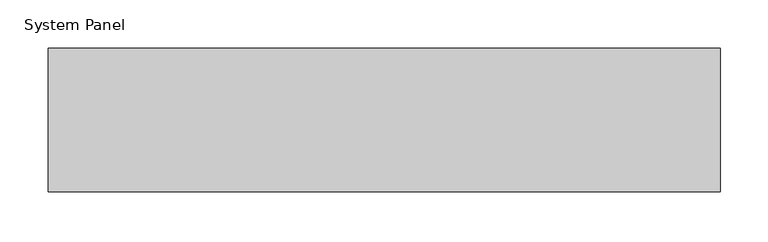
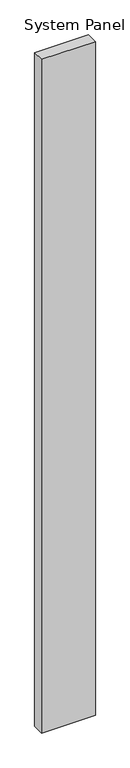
"""IFC4 building model written with IfcOpenShell, lengths in millimetres: plate geometry, System Panel : SolarSpan 150mm Roof - Plain Surfmist."""

import ifcopenshell
import ifcopenshell.guid

model = None  # the IFC model being written
_history = None  # IfcOwnerHistory: only IFC2X3 demands one
_inside = {}  # id of a spatial element -> (the spatial element, [elements in it])
_under = {}  # id of a project, library or spatial element -> (it, [spatial elements below it])
_declared = {}  # id of a project -> (the project, [libraries it declares])
_typed = {}  # id of a type object -> (the type object, [elements of that type])
_made_of = {}  # id of a material, layer set ... -> (it, [elements and type objects made of it])


def new_model(schema):
    """Start an empty IFC model of exactly this schema.

    Asked for "IFC4X3", IfcOpenShell would pick the latest addendum, in which some entities
    have other attributes; the version numbers below select the first issue.
    IFC2X3 requires an IfcOwnerHistory on every rooted entity: one is made here for all.
    """
    global model, _history
    if schema == "IFC4X3":
        model = ifcopenshell.file(schema_version=(4, 3, 0, 0))
    else:
        model = ifcopenshell.file(schema=schema)
    _inside.clear()
    _under.clear()
    _declared.clear()
    _typed.clear()
    _made_of.clear()
    _history = None
    if model.schema == "IFC2X3":
        org = make("IfcOrganization", Name="unknown")
        user = make(
            "IfcPersonAndOrganization",
            ThePerson=make("IfcPerson", FamilyName="unknown"),
            TheOrganization=org,
        )
        app = make(
            "IfcApplication",
            ApplicationDeveloper=org,
            Version="unknown",
            ApplicationFullName="unknown",
            ApplicationIdentifier="unknown",
        )
        _history = make(
            "IfcOwnerHistory",
            OwningUser=user,
            OwningApplication=app,
            ChangeAction="ADDED",
            CreationDate=0,
        )
    return model


def make(cls, **values):
    """One entity of the class cls with the attributes given. An attribute that is None is left unset."""
    return model.create_entity(
        cls, **{name: value for name, value in values.items() if value is not None}
    )


def rooted(cls, **values):
    """An entity with a GlobalId (a new one), such as an element, a storey or a relation."""
    return make(cls, GlobalId=ifcopenshell.guid.new(), OwnerHistory=_history, **values)


def si_unit(unit_type, name, prefix=None):
    """IfcSIUnit, for example si_unit("LENGTHUNIT", "METRE", prefix="MILLI")."""
    return make("IfcSIUnit", UnitType=unit_type, Prefix=prefix, Name=name)


def assignment(units):
    """IfcUnitAssignment: the units of a project."""
    return None if units is None else make("IfcUnitAssignment", Units=units)


def point(xyz):
    """IfcCartesianPoint."""
    return None if xyz is None else make("IfcCartesianPoint", Coordinates=xyz)


def direction(xyz):
    """IfcDirection."""
    return None if xyz is None else make("IfcDirection", DirectionRatios=xyz)


def frame(location, z_axis=None, x_axis=None):
    """IfcAxis2Placement3D, a coordinate frame: its origin and axes. An axis left out is left unset."""
    return make(
        "IfcAxis2Placement3D",
        Location=point(location),
        Axis=direction(z_axis),
        RefDirection=direction(x_axis),
    )


def origin():
    """The frame at (0, 0, 0) with its axes left unset."""
    return frame((0.0, 0.0, 0.0))


def origin_with_axes():
    """The frame at (0, 0, 0) with the z axis (0, 0, 1) and the x axis (1, 0, 0) written out."""
    return frame((0.0, 0.0, 0.0), z_axis=(0.0, 0.0, 1.0), x_axis=(1.0, 0.0, 0.0))


def place(relative_to, where):
    """IfcLocalPlacement: puts the frame where relative to a parent placement (None: the world)."""
    return make(
        "IfcLocalPlacement", PlacementRelTo=relative_to, RelativePlacement=where
    )


def context(
    kind, dimensions, precision=None, world=None, true_north=None, identifier=None
):
    """IfcGeometricRepresentationContext, for example the 3D "Model" context."""
    return make(
        "IfcGeometricRepresentationContext",
        ContextIdentifier=identifier,
        ContextType=kind,
        CoordinateSpaceDimension=dimensions,
        Precision=precision,
        WorldCoordinateSystem=world,
        TrueNorth=true_north,
    )


def project(units=None, contexts=None):
    """IfcProject with its units and contexts."""
    return rooted(
        "IfcProject",
        Name="project",
        RepresentationContexts=contexts,
        UnitsInContext=assignment(units),
    )


def spatial(cls, under=None, at=None, **own):
    """A site, building, storey or space (cls), placed at a placement, below another one or the project."""
    s = rooted(cls, ObjectPlacement=at, **own)
    if under is not None:
        _under.setdefault(under.id(), (under, []))[1].append(s)
    return s


def polyline(points):
    """IfcPolyline through the points."""
    return make("IfcPolyline", Points=[point(p) for p in points])


def outline(outer, holes=None, kind="AREA"):
    """IfcArbitraryClosedProfileDef: a profile drawn as a closed curve; with holes, ...WithVoids."""
    if holes is None:
        return make("IfcArbitraryClosedProfileDef", ProfileType=kind, OuterCurve=outer)
    return make(
        "IfcArbitraryProfileDefWithVoids",
        ProfileType=kind,
        OuterCurve=outer,
        InnerCurves=holes,
    )


def extrude(swept, where, along, depth):
    """IfcExtrudedAreaSolid: the profile swept, set in the frame where, extruded along a direction by depth."""
    return make(
        "IfcExtrudedAreaSolid",
        SweptArea=swept,
        Position=where,
        ExtrudedDirection=direction(along),
        Depth=depth,
    )


def shape(context_of_items, identifier, shape_type, items):
    """IfcShapeRepresentation: the items that make up one representation, for example the "Body"."""
    return make(
        "IfcShapeRepresentation",
        ContextOfItems=context_of_items,
        RepresentationIdentifier=identifier,
        RepresentationType=shape_type,
        Items=items,
    )


def source(mapping_origin, context_of_items, identifier, shape_type, items):
    """IfcRepresentationMap: a shape defined once, which mapped items show again and again."""
    return make(
        "IfcRepresentationMap",
        MappingOrigin=mapping_origin,
        MappedRepresentation=shape(context_of_items, identifier, shape_type, items),
    )


def transform(
    local_origin,
    x_axis=None,
    y_axis=None,
    z_axis=None,
    scale=None,
    scale2=None,
    scale3=None,
    uniform=True,
):
    """IfcCartesianTransformationOperator3D, or its non-uniform kind. x_axis, y_axis, z_axis: its Axis1, 2, 3."""
    if uniform:
        return make(
            "IfcCartesianTransformationOperator3D",
            Axis1=direction(x_axis),
            Axis2=direction(y_axis),
            LocalOrigin=point(local_origin),
            Scale=scale,
            Axis3=direction(z_axis),
        )
    return make(
        "IfcCartesianTransformationOperator3DnonUniform",
        Axis1=direction(x_axis),
        Axis2=direction(y_axis),
        LocalOrigin=point(local_origin),
        Scale=scale,
        Axis3=direction(z_axis),
        Scale2=scale2,
        Scale3=scale3,
    )


def mapped(mapping_source, mapping_target):
    """IfcMappedItem: shows the shape of a source again, moved by a transform."""
    return make(
        "IfcMappedItem", MappingSource=mapping_source, MappingTarget=mapping_target
    )


def made_of(thing, what):
    """Note that an element or type object is made of a material, layer set ...; save() writes the relation."""
    if what is not None:
        _made_of.setdefault(what.id(), (what, []))[1].append(thing)
    return thing


def element(
    cls,
    number,
    at=None,
    inside=None,
    cuts=None,
    type_object=None,
    material=None,
    context=None,
    identifier="Body",
    shape_type=None,
    held_by="IfcProductDefinitionShape",
    body=None,
    shapes=None,
    **own,
):
    """One element of the class cls, such as IfcWall. Its Tag is "e" and its number.

    at: its placement. inside: the storey or other place that contains it. cuts: it is an
    opening in that element (IfcRelVoidsElement). A single representation is given by context,
    identifier, shape_type and body (its items); several are given by shapes. held_by: the class
    of the entity that holds the representations. save() writes the other relations.
    """
    e = rooted(cls, Tag="e%d" % number, ObjectPlacement=at, **own)
    if body is not None:
        shapes = [shape(context, identifier, shape_type, body)]
    if shapes is not None:
        e.Representation = make(held_by, Representations=shapes)
    if inside is not None:
        _inside.setdefault(inside.id(), (inside, []))[1].append(e)
    if cuts is not None:
        rooted(
            "IfcRelVoidsElement", RelatingBuildingElement=cuts, RelatedOpeningElement=e
        )
    if type_object is not None:
        _typed.setdefault(type_object.id(), (type_object, []))[1].append(e)
    return made_of(e, material)


def aggregate(whole, parts):
    """IfcRelAggregates: a whole, such as a stair, and the parts it consists of."""
    return rooted("IfcRelAggregates", RelatingObject=whole, RelatedObjects=parts)


def save(model, path):
    """Write the relations noted so far, then the file.

    IfcRelAggregates (storeys below a building ...), IfcRelContainedInSpatialStructure (elements
    in a storey), IfcRelDefinesByType, IfcRelAssociatesMaterial and IfcRelDeclares: one each for
    every whole, place, type object, material and project.
    """
    for whole, parts in _under.values():
        aggregate(whole, parts)
    for where, things in _inside.values():
        rooted(
            "IfcRelContainedInSpatialStructure",
            RelatedElements=things,
            RelatingStructure=where,
        )
    for kind, things in _typed.values():
        rooted("IfcRelDefinesByType", RelatedObjects=things, RelatingType=kind)
    for what, things in _made_of.values():
        rooted("IfcRelAssociatesMaterial", RelatedObjects=things, RelatingMaterial=what)
    for by, libraries in _declared.values():
        rooted("IfcRelDeclares", RelatingContext=by, RelatedDefinitions=libraries)
    model.write(path)


def system_panel_7cb49efc(model_context):
    return source(origin(), model_context, "Body", "SweptSolid", [
        extrude(outline(polyline([(350.0, -150.0), (-350.0, -150.0), (-350.0, 0.0), (350.0, 0.0), (350.0, -150.0)])), origin_with_axes(), (0.0, 0.0, 1.0), 9240.3821682),
    ])


if __name__ == "__main__":
    model = new_model("IFC4")
    model_context = context("Model", 3, world=origin())
    ifc_project = project(units=[si_unit("LENGTHUNIT", "METRE", prefix="MILLI")], contexts=[model_context])
    site = spatial("IfcSite", under=ifc_project)
    building = spatial("IfcBuilding", under=site)
    placement = place(None, origin())
    system_panel_shape = system_panel_7cb49efc(model_context)
    element("IfcPlate", 1, ObjectType="System Panel : SolarSpan 150mm Roof - Plain Surfmist", at=placement, inside=building, context=model_context, shape_type="MappedRepresentation", body=[
        mapped(system_panel_shape, transform((0.0, 0.0, 0.0), x_axis=(1.0, 0.0, 0.0), y_axis=(0.0, 1.0, 0.0), z_axis=(0.0, 0.0, 1.0))),
    ])
    save(model, "model.ifc")
